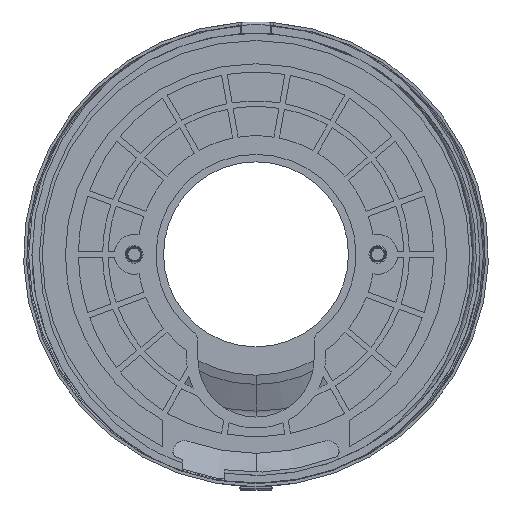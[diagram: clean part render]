
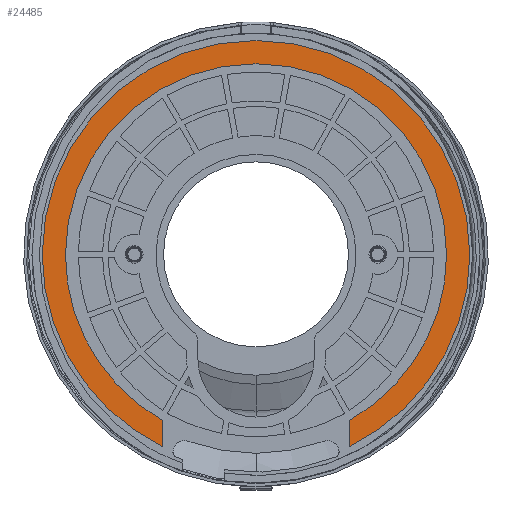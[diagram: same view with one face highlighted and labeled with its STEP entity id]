
A CAD part, front view. The second image highlights one B-rep face of the part: STEP entity #24485.
In plain terms, the highlighted planar face has unit normal (0, -1, 0).
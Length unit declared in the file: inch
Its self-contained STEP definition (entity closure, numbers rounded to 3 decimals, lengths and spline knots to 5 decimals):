
#330 = ORIENTED_EDGE ( 'NONE', *, *, #23573, .F. ) ;
#502 = CARTESIAN_POINT ( 'NONE',  ( 1.005, -0.028, -1.78675 ) ) ;
#1102 = CARTESIAN_POINT ( 'NONE',  ( -2.3, -0.028, 0. ) ) ;
#1497 = DIRECTION ( 'NONE',  ( 0., -1., 0. ) ) ;
#2015 = CIRCLE ( 'NONE', #10525, 2.3 ) ;
#2534 = CIRCLE ( 'NONE', #5829, 2.05 ) ;
#3869 = LINE ( 'NONE', #37842, #39257 ) ;
#4623 = CARTESIAN_POINT ( 'NONE',  ( 1.005, -0.028, 0. ) ) ;
#5151 = AXIS2_PLACEMENT_3D ( 'NONE', #28406, #9996, #10609 ) ;
#5429 = DIRECTION ( 'NONE',  ( -1., 0., 0. ) ) ;
#5564 = VERTEX_POINT ( 'NONE', #19741 ) ;
#5829 = AXIS2_PLACEMENT_3D ( 'NONE', #36440, #36247, #10890 ) ;
#5987 = DIRECTION ( 'NONE',  ( -1., 0., 0. ) ) ;
#6451 = EDGE_CURVE ( 'NONE', #35581, #38383, #6460, .T. ) ;
#6460 = CIRCLE ( 'NONE', #34556, 2.3 ) ;
#6557 = ORIENTED_EDGE ( 'NONE', *, *, #6451, .F. ) ;
#6691 = EDGE_CURVE ( 'NONE', #40036, #17481, #2534, .T. ) ;
#7511 = VERTEX_POINT ( 'NONE', #502 ) ;
#7615 = VERTEX_POINT ( 'NONE', #15882 ) ;
#8752 = ORIENTED_EDGE ( 'NONE', *, *, #16126, .F. ) ;
#8836 = CIRCLE ( 'NONE', #27140, 2.3 ) ;
#9662 = CARTESIAN_POINT ( 'NONE',  ( 0., -0.028, 0. ) ) ;
#9996 = DIRECTION ( 'NONE',  ( 0., -1., 0. ) ) ;
#10253 = EDGE_CURVE ( 'NONE', #7615, #35581, #2015, .T. ) ;
#10394 = CARTESIAN_POINT ( 'NONE',  ( -2.05, -0.028, 0. ) ) ;
#10525 = AXIS2_PLACEMENT_3D ( 'NONE', #30579, #27531, #5429 ) ;
#10609 = DIRECTION ( 'NONE',  ( -1., 0., 0. ) ) ;
#10890 = DIRECTION ( 'NONE',  ( -1., 0., 0. ) ) ;
#10933 = DIRECTION ( 'NONE',  ( -1., 0., 0. ) ) ;
#11609 = CARTESIAN_POINT ( 'NONE',  ( -1.005, -0.028, -1.78675 ) ) ;
#11887 = CARTESIAN_POINT ( 'NONE',  ( 2.05, -0.028, 0. ) ) ;
#11929 = ORIENTED_EDGE ( 'NONE', *, *, #37349, .F. ) ;
#12152 = PLANE ( 'NONE',  #40258 ) ;
#14068 = LINE ( 'NONE', #4623, #27062 ) ;
#14405 = VERTEX_POINT ( 'NONE', #11887 ) ;
#14742 = ORIENTED_EDGE ( 'NONE', *, *, #6691, .F. ) ;
#15821 = DIRECTION ( 'NONE',  ( 0., 1., 0. ) ) ;
#15882 = CARTESIAN_POINT ( 'NONE',  ( -1.005, -0.028, -2.06881 ) ) ;
#16126 = EDGE_CURVE ( 'NONE', #5564, #7511, #14068, .T. ) ;
#16389 = DIRECTION ( 'NONE',  ( 0., 0., -1. ) ) ;
#17481 = VERTEX_POINT ( 'NONE', #11609 ) ;
#18380 = ORIENTED_EDGE ( 'NONE', *, *, #10253, .F. ) ;
#18855 = CIRCLE ( 'NONE', #5151, 2.05 ) ;
#19741 = CARTESIAN_POINT ( 'NONE',  ( 1.005, -0.028, -2.06881 ) ) ;
#20342 = FACE_OUTER_BOUND ( 'NONE', #30925, .T. ) ;
#20349 = CARTESIAN_POINT ( 'NONE',  ( 0., -0.028, 0. ) ) ;
#21553 = CARTESIAN_POINT ( 'NONE',  ( 2.3, -0.028, 0. ) ) ;
#23573 = EDGE_CURVE ( 'NONE', #38383, #5564, #8836, .T. ) ;
#24012 = DIRECTION ( 'NONE',  ( 0., 1., 0. ) ) ;
#24022 = DIRECTION ( 'NONE',  ( -1., 0., 0. ) ) ;
#24415 = CARTESIAN_POINT ( 'NONE',  ( 0., -0.028, 0. ) ) ;
#24485 = ADVANCED_FACE ( 'NONE', ( #20342 ), #12152, .F. ) ;
#27062 = VECTOR ( 'NONE', #32649, 39.37008 ) ;
#27140 = AXIS2_PLACEMENT_3D ( 'NONE', #24415, #24012, #5987 ) ;
#27531 = DIRECTION ( 'NONE',  ( 0., 1., 0. ) ) ;
#27809 = ORIENTED_EDGE ( 'NONE', *, *, #34593, .F. ) ;
#28406 = CARTESIAN_POINT ( 'NONE',  ( 0., -0.028, 0. ) ) ;
#28646 = AXIS2_PLACEMENT_3D ( 'NONE', #29546, #1497, #10933 ) ;
#29546 = CARTESIAN_POINT ( 'NONE',  ( 0., -0.028, 0. ) ) ;
#29969 = EDGE_CURVE ( 'NONE', #7511, #14405, #18855, .T. ) ;
#30579 = CARTESIAN_POINT ( 'NONE',  ( 0., -0.028, 0. ) ) ;
#30925 = EDGE_LOOP ( 'NONE', ( #18380, #11929, #14742, #27809, #40187, #8752, #330, #6557 ) ) ;
#31543 = DIRECTION ( 'NONE',  ( -1., 0., 0. ) ) ;
#32649 = DIRECTION ( 'NONE',  ( 0., 0., 1. ) ) ;
#33876 = CIRCLE ( 'NONE', #28646, 2.05 ) ;
#34556 = AXIS2_PLACEMENT_3D ( 'NONE', #20349, #39755, #24022 ) ;
#34593 = EDGE_CURVE ( 'NONE', #14405, #40036, #33876, .T. ) ;
#35581 = VERTEX_POINT ( 'NONE', #1102 ) ;
#36247 = DIRECTION ( 'NONE',  ( 0., -1., 0. ) ) ;
#36440 = CARTESIAN_POINT ( 'NONE',  ( 0., -0.028, 0. ) ) ;
#37349 = EDGE_CURVE ( 'NONE', #17481, #7615, #3869, .T. ) ;
#37842 = CARTESIAN_POINT ( 'NONE',  ( -1.005, -0.028, 0. ) ) ;
#38383 = VERTEX_POINT ( 'NONE', #21553 ) ;
#39257 = VECTOR ( 'NONE', #16389, 39.37008 ) ;
#39755 = DIRECTION ( 'NONE',  ( 0., 1., 0. ) ) ;
#40036 = VERTEX_POINT ( 'NONE', #10394 ) ;
#40187 = ORIENTED_EDGE ( 'NONE', *, *, #29969, .F. ) ;
#40258 = AXIS2_PLACEMENT_3D ( 'NONE', #9662, #15821, #31543 ) ;
